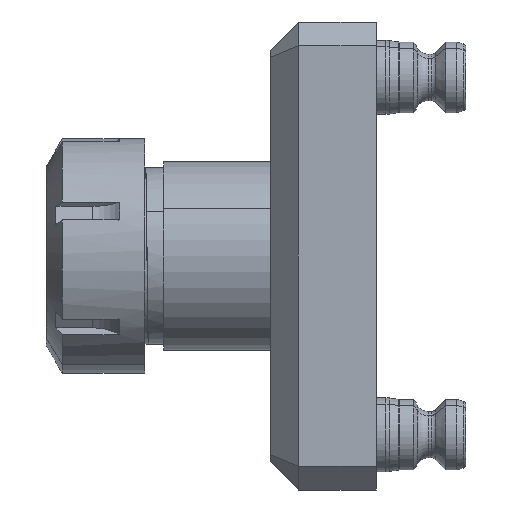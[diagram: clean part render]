
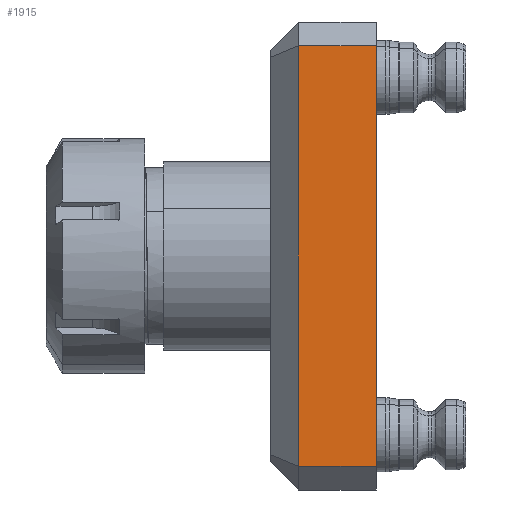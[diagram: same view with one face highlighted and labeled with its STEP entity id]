
A CAD part, left-side view. The second image highlights one B-rep face of the part: STEP entity #1915.
In plain terms, the highlighted planar face has unit normal (-1, 0, 0).
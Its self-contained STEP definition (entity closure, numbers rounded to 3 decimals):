
#458 = LINE ( 'NONE', #3794, #1695 ) ;
#739 = DIRECTION ( 'NONE',  ( 0., 0., -1. ) ) ;
#1073 = DIRECTION ( 'NONE',  ( 0., 0., -1. ) ) ;
#1695 = VECTOR ( 'NONE', #10807, 1000. ) ;
#1781 = CARTESIAN_POINT ( 'NONE',  ( -62.865, 0., -62.865 ) ) ;
#1915 = ADVANCED_FACE ( 'NONE', ( #10373 ), #10631, .F. ) ;
#2252 = VERTEX_POINT ( 'NONE', #12163 ) ;
#2253 = LINE ( 'NONE', #1781, #7521 ) ;
#2281 = EDGE_LOOP ( 'NONE', ( #11503, #8548, #7713, #12029 ) ) ;
#2967 = CARTESIAN_POINT ( 'NONE',  ( -62.865, 20.955, -56.515 ) ) ;
#3504 = VECTOR ( 'NONE', #1073, 1000. ) ;
#3552 = VERTEX_POINT ( 'NONE', #10052 ) ;
#3794 = CARTESIAN_POINT ( 'NONE',  ( -62.865, 28.575, 56.515 ) ) ;
#4115 = LINE ( 'NONE', #9219, #7665 ) ;
#5640 = CARTESIAN_POINT ( 'NONE',  ( -62.865, 28.575, -62.865 ) ) ;
#5688 = DIRECTION ( 'NONE',  ( 1., 0., 0. ) ) ;
#5755 = EDGE_CURVE ( 'NONE', #9100, #10526, #2253, .T. ) ;
#6144 = EDGE_CURVE ( 'NONE', #3552, #2252, #8134, .T. ) ;
#6324 = DIRECTION ( 'NONE',  ( 0., -1., 0. ) ) ;
#6840 = DIRECTION ( 'NONE',  ( 0., 0., 1. ) ) ;
#7521 = VECTOR ( 'NONE', #6840, 1000. ) ;
#7665 = VECTOR ( 'NONE', #6324, 1000. ) ;
#7713 = ORIENTED_EDGE ( 'NONE', *, *, #11350, .T. ) ;
#7871 = AXIS2_PLACEMENT_3D ( 'NONE', #5640, #5688, #739 ) ;
#8134 = LINE ( 'NONE', #2967, #3504 ) ;
#8548 = ORIENTED_EDGE ( 'NONE', *, *, #6144, .T. ) ;
#8876 = CARTESIAN_POINT ( 'NONE',  ( -62.865, 0., -56.515 ) ) ;
#9100 = VERTEX_POINT ( 'NONE', #8876 ) ;
#9219 = CARTESIAN_POINT ( 'NONE',  ( -62.865, 28.575, -56.515 ) ) ;
#9447 = EDGE_CURVE ( 'NONE', #10526, #3552, #458, .T. ) ;
#10052 = CARTESIAN_POINT ( 'NONE',  ( -62.865, 20.955, 56.515 ) ) ;
#10066 = CARTESIAN_POINT ( 'NONE',  ( -62.865, 0., 56.515 ) ) ;
#10373 = FACE_OUTER_BOUND ( 'NONE', #2281, .T. ) ;
#10526 = VERTEX_POINT ( 'NONE', #10066 ) ;
#10631 = PLANE ( 'NONE',  #7871 ) ;
#10807 = DIRECTION ( 'NONE',  ( 0., 1., 0. ) ) ;
#11350 = EDGE_CURVE ( 'NONE', #2252, #9100, #4115, .T. ) ;
#11503 = ORIENTED_EDGE ( 'NONE', *, *, #9447, .T. ) ;
#12029 = ORIENTED_EDGE ( 'NONE', *, *, #5755, .T. ) ;
#12163 = CARTESIAN_POINT ( 'NONE',  ( -62.865, 20.955, -56.515 ) ) ;
